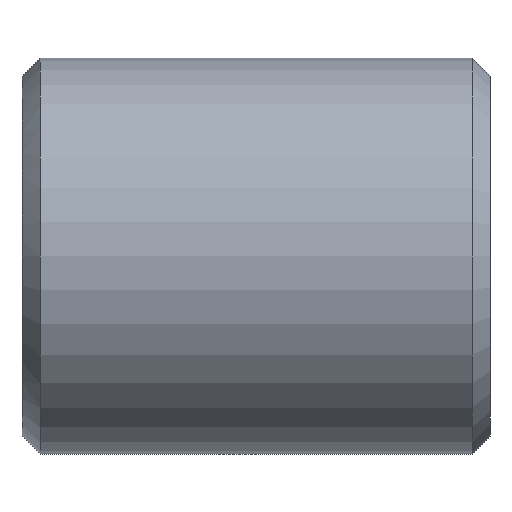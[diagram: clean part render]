
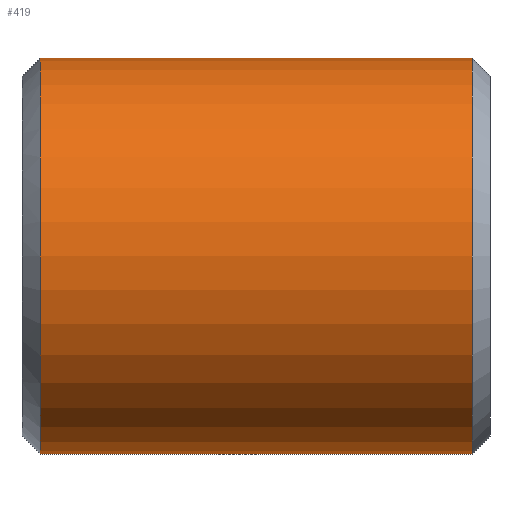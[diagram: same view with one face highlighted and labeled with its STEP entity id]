
A CAD part, front view. The second image highlights one B-rep face of the part: STEP entity #419.
In plain terms, the highlighted cylindrical face has radius 11 mm (diameter 22 mm), a partial arc.
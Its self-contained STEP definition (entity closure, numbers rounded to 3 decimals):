
#231=CARTESIAN_POINT('Vertex',(1.,0.,-11.)) ;
#238=CARTESIAN_POINT('Vertex',(1.,0.,11.)) ;
#267=CARTESIAN_POINT('Axis2P3D Location',(1.,0.,0.)) ;
#271=CARTESIAN_POINT('Vertex',(1.,-11.,0.)) ;
#274=CARTESIAN_POINT('Axis2P3D Location',(1.,0.,0.)) ;
#359=CARTESIAN_POINT('Line Origine',(26.,0.,11.)) ;
#363=CARTESIAN_POINT('Vertex',(25.,0.,11.)) ;
#377=CARTESIAN_POINT('Vertex',(25.,0.,-11.)) ;
#380=CARTESIAN_POINT('Line Origine',(26.,0.,-11.)) ;
#394=CARTESIAN_POINT('Axis2P3D Location',(26.,0.,0.)) ;
#399=CARTESIAN_POINT('Axis2P3D Location',(25.,0.,0.)) ;
#403=CARTESIAN_POINT('Vertex',(25.,-11.,0.)) ;
#406=CARTESIAN_POINT('Axis2P3D Location',(25.,0.,0.)) ;
#268=DIRECTION('Axis2P3D Direction',(1.,0.,-0.)) ;
#275=DIRECTION('Axis2P3D Direction',(1.,0.,-0.)) ;
#360=DIRECTION('Vector Direction',(-1.,0.,0.)) ;
#381=DIRECTION('Vector Direction',(-1.,0.,0.)) ;
#395=DIRECTION('Axis2P3D Direction',(-1.,-0.,-0.)) ;
#396=DIRECTION('Axis2P3D XDirection',(0.,0.,-1.)) ;
#400=DIRECTION('Axis2P3D Direction',(-1.,-0.,-0.)) ;
#407=DIRECTION('Axis2P3D Direction',(-1.,-0.,-0.)) ;
#269=AXIS2_PLACEMENT_3D('Circle Axis2P3D',#267,#268,$) ;
#276=AXIS2_PLACEMENT_3D('Circle Axis2P3D',#274,#275,$) ;
#397=AXIS2_PLACEMENT_3D('Cylinder Axis2P3D',#394,#395,#396) ;
#401=AXIS2_PLACEMENT_3D('Circle Axis2P3D',#399,#400,$) ;
#408=AXIS2_PLACEMENT_3D('Circle Axis2P3D',#406,#407,$) ;
#412=ORIENTED_EDGE('',*,*,#384,.T.) ;
#413=ORIENTED_EDGE('',*,*,#405,.F.) ;
#414=ORIENTED_EDGE('',*,*,#410,.F.) ;
#415=ORIENTED_EDGE('',*,*,#365,.T.) ;
#416=ORIENTED_EDGE('',*,*,#278,.T.) ;
#417=ORIENTED_EDGE('',*,*,#273,.T.) ;
#361=VECTOR('Line Direction',#360,1.) ;
#382=VECTOR('Line Direction',#381,1.) ;
#419=ADVANCED_FACE('352-16X26',(#418),#398,.T.) ;
#270=CIRCLE('generated circle',#269,11.) ;
#277=CIRCLE('generated circle',#276,11.) ;
#402=CIRCLE('generated circle',#401,11.) ;
#409=CIRCLE('generated circle',#408,11.) ;
#398=CYLINDRICAL_SURFACE('generated cylinder',#397,11.) ;
#273=EDGE_CURVE('',#272,#232,#270,.T.) ;
#278=EDGE_CURVE('',#239,#272,#277,.T.) ;
#365=EDGE_CURVE('',#364,#239,#362,.T.) ;
#384=EDGE_CURVE('',#232,#378,#383,.F.) ;
#405=EDGE_CURVE('',#404,#378,#402,.F.) ;
#410=EDGE_CURVE('',#364,#404,#409,.F.) ;
#411=EDGE_LOOP('',(#412,#413,#414,#415,#416,#417)) ;
#418=FACE_OUTER_BOUND('',#411,.T.) ;
#362=LINE('Line',#359,#361) ;
#383=LINE('Line',#380,#382) ;
#232=VERTEX_POINT('',#231) ;
#239=VERTEX_POINT('',#238) ;
#272=VERTEX_POINT('',#271) ;
#364=VERTEX_POINT('',#363) ;
#378=VERTEX_POINT('',#377) ;
#404=VERTEX_POINT('',#403) ;
